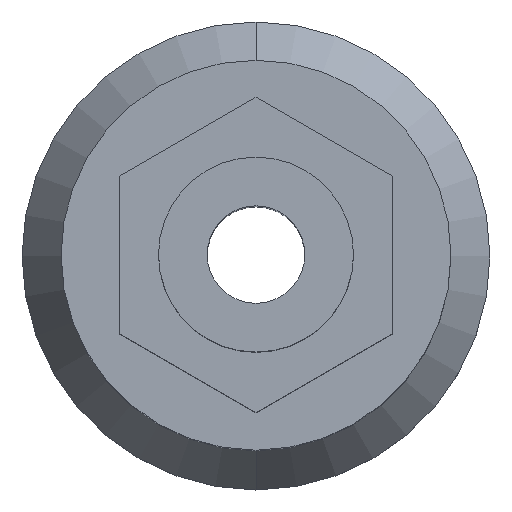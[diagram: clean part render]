
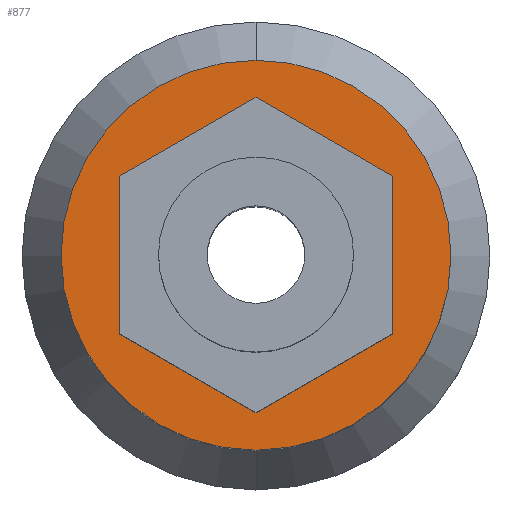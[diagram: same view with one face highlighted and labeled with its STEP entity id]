
A CAD part, top view. The second image highlights one B-rep face of the part: STEP entity #877.
In plain terms, the highlighted planar face has unit normal (0, 0, 1).
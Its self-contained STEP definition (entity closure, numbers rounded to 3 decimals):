
#16 = PLANE ( 'NONE',  #1736 ) ;
#17 = CARTESIAN_POINT ( 'NONE',  ( -2.25, 0., -5. ) ) ;
#26 = DIRECTION ( 'NONE',  ( 0., 0., -1. ) ) ;
#27 = DIRECTION ( 'NONE',  ( -1., 0., 0. ) ) ;
#71 = AXIS2_PLACEMENT_3D ( 'NONE', #1392, #897, #1527 ) ;
#117 = CARTESIAN_POINT ( 'NONE',  ( 5., 0., -5. ) ) ;
#202 = FACE_OUTER_BOUND ( 'NONE', #829, .T. ) ;
#213 = DIRECTION ( 'NONE',  ( 0., 0., -1. ) ) ;
#217 = DIRECTION ( 'NONE',  ( -1., 0., 0. ) ) ;
#315 = CIRCLE ( 'NONE', #963, 5. ) ;
#330 = VERTEX_POINT ( 'NONE', #1060 ) ;
#377 = EDGE_CURVE ( 'NONE', #1621, #1025, #1496, .T. ) ;
#447 = CARTESIAN_POINT ( 'NONE',  ( 0., 0., -5. ) ) ;
#455 = CIRCLE ( 'NONE', #1218, 2.25 ) ;
#493 = CARTESIAN_POINT ( 'NONE',  ( -2.25, 0., -5. ) ) ;
#527 = DIRECTION ( 'NONE',  ( -1., 0., 0. ) ) ;
#623 = DIRECTION ( 'NONE',  ( -1., 0., 0. ) ) ;
#683 = CARTESIAN_POINT ( 'NONE',  ( -5., 0., -5. ) ) ;
#691 = CARTESIAN_POINT ( 'NONE',  ( 0., 0., -5. ) ) ;
#723 = DIRECTION ( 'NONE',  ( 0., 0., -1. ) ) ;
#777 = CARTESIAN_POINT ( 'NONE',  ( 0., 0., -5. ) ) ;
#829 = EDGE_LOOP ( 'NONE', ( #1233, #1010 ) ) ;
#877 = ADVANCED_FACE ( 'NONE', ( #1421, #202 ), #16, .F. ) ;
#897 = DIRECTION ( 'NONE',  ( 0., 0., 1. ) ) ;
#963 = AXIS2_PLACEMENT_3D ( 'NONE', #447, #213, #217 ) ;
#982 = EDGE_LOOP ( 'NONE', ( #1073, #1091 ) ) ;
#990 = DIRECTION ( 'NONE',  ( 0., 0., 1. ) ) ;
#1010 = ORIENTED_EDGE ( 'NONE', *, *, #1616, .F. ) ;
#1025 = VERTEX_POINT ( 'NONE', #117 ) ;
#1060 = CARTESIAN_POINT ( 'NONE',  ( 2.25, 0., -5. ) ) ;
#1073 = ORIENTED_EDGE ( 'NONE', *, *, #1739, .F. ) ;
#1091 = ORIENTED_EDGE ( 'NONE', *, *, #1477, .F. ) ;
#1218 = AXIS2_PLACEMENT_3D ( 'NONE', #691, #990, #623 ) ;
#1233 = ORIENTED_EDGE ( 'NONE', *, *, #377, .F. ) ;
#1257 = CIRCLE ( 'NONE', #71, 2.25 ) ;
#1349 = VERTEX_POINT ( 'NONE', #493 ) ;
#1388 = AXIS2_PLACEMENT_3D ( 'NONE', #777, #723, #527 ) ;
#1392 = CARTESIAN_POINT ( 'NONE',  ( 0., 0., -5. ) ) ;
#1421 = FACE_BOUND ( 'NONE', #982, .T. ) ;
#1477 = EDGE_CURVE ( 'NONE', #330, #1349, #1257, .T. ) ;
#1496 = CIRCLE ( 'NONE', #1388, 5. ) ;
#1527 = DIRECTION ( 'NONE',  ( -1., 0., 0. ) ) ;
#1616 = EDGE_CURVE ( 'NONE', #1025, #1621, #315, .T. ) ;
#1621 = VERTEX_POINT ( 'NONE', #683 ) ;
#1736 = AXIS2_PLACEMENT_3D ( 'NONE', #17, #26, #27 ) ;
#1739 = EDGE_CURVE ( 'NONE', #1349, #330, #455, .T. ) ;
